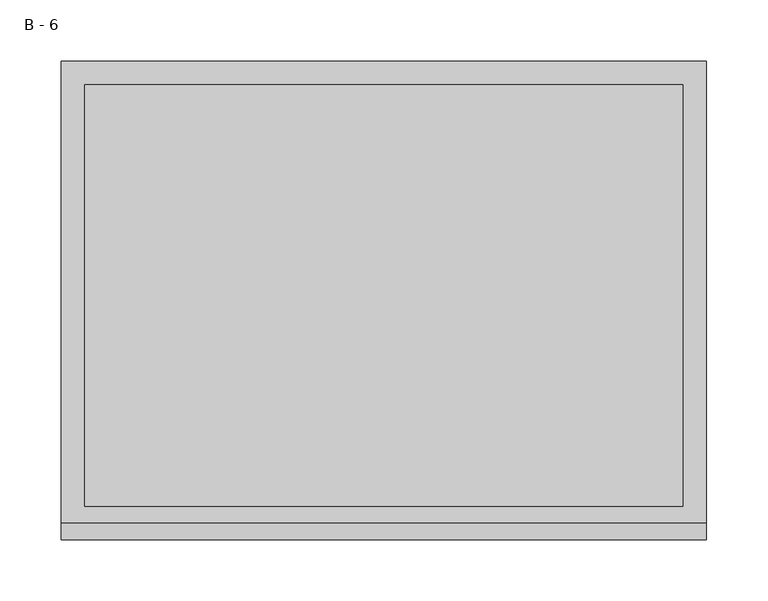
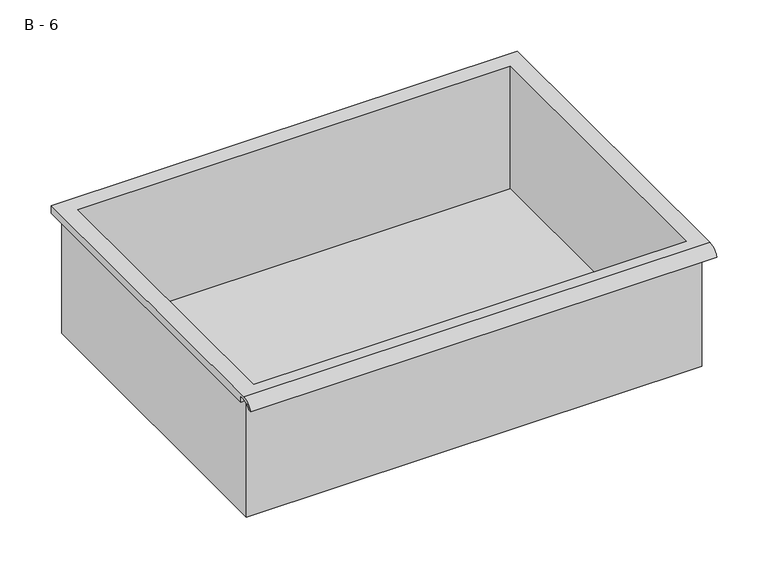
"""IFC4 building model written with IfcOpenShell, lengths in millimetres: furniture geometry, HermanMiller_CoStruc_CO207_Drawer : B - 6."""

from ifc_helpers import new_model, si_unit, frame, origin, place, context, project, spatial, polyline, circle_curve, source, transform, mapped, element, save
from ifc_brep_helpers import plane_surface, cylinder_surface, revolved_surface, advanced_brep


def b_6_ff784f8a(model_context):
    return source(origin(), model_context, "Body", "AdvancedBrep", [
        advanced_brep(
        [(-257.1076517, -176.2125, 346.075), (257.2423483, -176.2125, 346.075), (257.2423483, -176.2125, 485.775), (263.5923483, -176.2125, 485.775), (263.5923483, -176.2125, 492.0821341), (-263.4576517, -176.2125, 492.0821341), (-263.4576517, -176.2125, 485.775), (-257.1076517, -176.2125, 485.775), (257.2423483, 185.7375, 346.075), (-257.1076517, 185.7375, 346.075), (-257.1076517, 185.7375, 485.775), (257.2423483, 185.7375, 485.775), (263.5923483, -181.6070544, 495.3), (263.5923483, 195.2625, 495.3), (-263.4576517, 195.2625, 495.3), (-263.4576517, -181.6070544, 495.3), (244.5423483, -168.275, 495.3), (-244.4076517, -168.275, 495.3), (-244.4076517, 176.2125, 495.3), (244.5423483, 176.2125, 495.3), (263.5923483, -195.2625, 485.775), (263.5923483, -191.8280601, 485.775), (263.5923483, -180.4714815, 492.0821341), (263.5923483, 195.2625, 485.775), (-263.4576517, 195.2625, 485.775), (-263.4576517, -180.4714815, 492.0821341), (-263.4576517, -191.8280601, 485.775), (-263.4576517, -195.2625, 485.775), (-244.4076517, -168.275, 349.1011719), (244.5423483, -168.275, 349.1011719), (244.5423483, 176.2125, 349.1011719), (-244.4076517, 176.2125, 349.1011719)],
        [
            (0, 1),
            (1, 2),
            (2, 3),
            (3, 4),
            (4, 5),
            (5, 6),
            (6, 7),
            (7, 0),
            (8, 9),
            (9, 10),
            (10, 11),
            (11, 8),
            (0, 9),
            (8, 1),
            (11, 2),
            (12, 13),
            (13, 14),
            (14, 15),
            (15, 12),
            (16, 17),
            (17, 18),
            (18, 19),
            (19, 16),
            (7, 10),
            (12, 20, circle_curve(frame((263.5923483, -181.6070544, 480.7489859), z_axis=(1.0, 0.0, 0.0), x_axis=(0.0, 1.0, 0.0)), 14.5510141)),
            (20, 21),
            (21, 22, circle_curve(frame((263.5923483, -181.6070544, 480.7489859), z_axis=(-1.0, 0.0, 0.0), x_axis=(0.0, 1.0, 0.0)), 11.3898979)),
            (22, 4),
            (3, 23),
            (23, 13),
            (14, 24),
            (24, 6),
            (5, 25),
            (25, 26, circle_curve(frame((-263.4576517, -181.6070544, 480.7489859), z_axis=(1.0, 0.0, 0.0), x_axis=(0.0, 1.0, 0.0)), 11.3898979)),
            (26, 27),
            (27, 15, circle_curve(frame((-263.4576517, -181.6070544, 480.7489859), z_axis=(-1.0, 0.0, 0.0), x_axis=(0.0, 1.0, 0.0)), 14.5510141)),
            (27, 20),
            (26, 21),
            (25, 22),
            (24, 23),
            (28, 29),
            (29, 30),
            (30, 31),
            (31, 28),
            (28, 17),
            (16, 29),
            (19, 30),
            (18, 31),
        ],
        [
            plane_surface(frame((257.2423483, -176.2125, 346.075), z_axis=(0.0, -1.0, 0.0), x_axis=(1.0, 0.0, 0.0))),
            plane_surface(frame((257.2423483, 185.7375, 346.075), z_axis=(0.0, 1.0, 0.0), x_axis=(-1.0, 0.0, 0.0))),
            plane_surface(frame((-257.1076517, -176.2125, 346.075), z_axis=(0.0, 0.0, -1.0), x_axis=(0.0, 1.0, 0.0))),
            plane_surface(frame((257.2423483, -176.2125, 346.075), z_axis=(1.0, 0.0, 0.0), x_axis=(0.0, 1.0, 0.0))),
            plane_surface(frame((257.2423483, -176.2125, 495.3), z_axis=(0.0, 0.0, 1.0), x_axis=(0.0, 1.0, 0.0))),
            plane_surface(frame((-257.1076517, -176.2125, 495.3), z_axis=(-1.0, 0.0, 0.0), x_axis=(0.0, 1.0, 0.0))),
            plane_surface(frame((263.5923483, 195.2625, 495.3), z_axis=(1.0, 0.0, 0.0), x_axis=(0.0, -1.0, 0.0))),
            plane_surface(frame((-263.4576517, 195.2625, 495.3), z_axis=(-1.0, 0.0, 0.0), x_axis=(0.0, 1.0, 0.0))),
            cylinder_surface(frame((-263.4576517, -181.6070544, 480.7489859), z_axis=(1.0, 0.0, 0.0), x_axis=(0.0, 1.0, 0.0)), 14.5510141),
            plane_surface(frame((263.5923483, -195.2625, 485.775), z_axis=(0.0, -7.271527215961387e-12, -1.0), x_axis=(-1.0, 0.0, 0.0))),
            revolved_surface(polyline([(-263.4576517, -170.21715650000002, 480.7489859), (263.59234829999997, -170.21715650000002, 480.7489859)]), (-263.4576517, -181.6070544, 480.7489859), (-1.0, 0.0, 0.0)),
            plane_surface(frame((263.5923483, -180.4714815, 492.0821341), z_axis=(0.0, -1.800442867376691e-11, -1.0), x_axis=(-1.0, 0.0, 0.0))),
            plane_surface(frame((263.5923483, -176.2125, 485.775), z_axis=(0.0, 0.0, -1.0), x_axis=(-1.0, 0.0, 0.0))),
            plane_surface(frame((263.5923483, 195.2625, 485.775), z_axis=(0.0, 1.0, 0.0), x_axis=(-1.0, 0.0, 0.0))),
            plane_surface(frame((244.5423483, -168.275, 349.1011719), z_axis=(0.0, 0.0, 1.0), x_axis=(-1.0, 0.0, 0.0))),
            plane_surface(frame((-244.4076517, -168.275, 495.3), z_axis=(0.0, 1.0, 0.0), x_axis=(0.0, 0.0, -1.0))),
            plane_surface(frame((244.5423483, -168.275, 495.3), z_axis=(-1.0, 0.0, 0.0), x_axis=(0.0, 0.0, -1.0))),
            plane_surface(frame((244.5423483, 176.2125, 495.3), z_axis=(0.0, -1.0, 0.0), x_axis=(0.0, 0.0, -1.0))),
            plane_surface(frame((-244.4076517, 176.2125, 495.3), z_axis=(1.0, 0.0, 0.0), x_axis=(0.0, 0.0, -1.0))),
        ],
        [
            (0, [[1, 2, 3, 4, 5, 6, 7, 8]]),
            (1, [[9, 10, 11, 12]]),
            (2, [[-1, 13, -9, 14]]),
            (3, [[-14, -12, 15, -2]]),
            (4, [[16, 17, 18, 19], [20, 21, 22, 23]]),
            (5, [[-13, -8, 24, -10]]),
            (6, [[-16, 25, 26, 27, 28, -4, 29, 30]]),
            (7, [[31, 32, -6, 33, 34, 35, 36, -18]]),
            (8, [[-25, -19, -36, 37]]),
            (9, [[-26, -37, -35, 38]]),
            (10, [[-27, -38, -34, 39]]),
            (11, [[-28, -39, -33, -5]]),
            (12, [[-29, -3, -15, -11, -24, -7, -32, 40]]),
            (13, [[-30, -40, -31, -17]]),
            (14, [[41, 42, 43, 44]]),
            (15, [[-41, 45, -20, 46]]),
            (16, [[-42, -46, -23, 47]]),
            (17, [[-43, -47, -22, 48]]),
            (18, [[-44, -48, -21, -45]]),
        ],
    ),
    ])


if __name__ == "__main__":
    model = new_model("IFC4")
    model_context = context("Model", 3, world=origin())
    ifc_project = project(units=[si_unit("LENGTHUNIT", "METRE", prefix="MILLI")], contexts=[model_context])
    site = spatial("IfcSite", under=ifc_project)
    building = spatial("IfcBuilding", under=site)
    placement = place(None, origin())
    b_6_shape = b_6_ff784f8a(model_context)
    element("IfcFurniture", 1, ObjectType="HermanMiller_CoStruc_CO207_Drawer : B - 6", at=placement, inside=building, context=model_context, shape_type="MappedRepresentation", body=[
        mapped(b_6_shape, transform((0.0, 0.0, 0.0), x_axis=(1.0, 0.0, 0.0), y_axis=(0.0, 1.0, 0.0), z_axis=(0.0, 0.0, 1.0))),
    ])
    save(model, "model.ifc")
